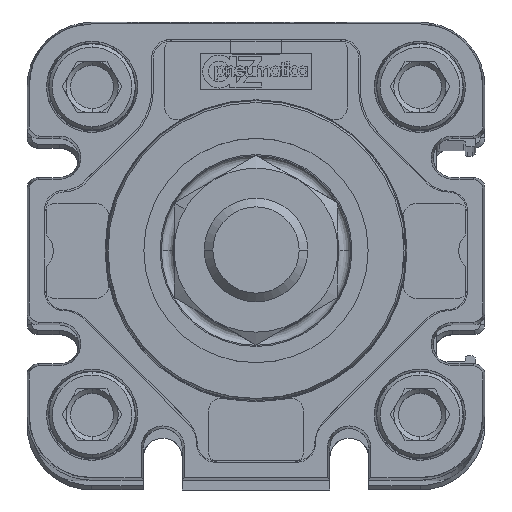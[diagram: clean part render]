
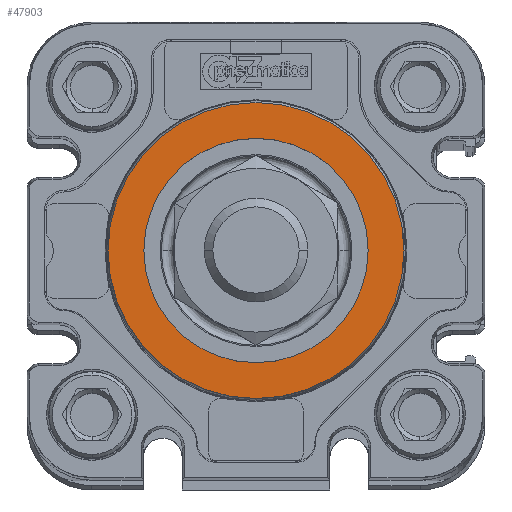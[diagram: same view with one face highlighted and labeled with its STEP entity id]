
A CAD part, top view. The second image highlights one B-rep face of the part: STEP entity #47903.
In plain terms, the highlighted planar face has unit normal (0, 0, 1) as drawn and (0, 0, -1) by its records, which use the part's own axes.
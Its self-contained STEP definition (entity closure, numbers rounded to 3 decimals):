
#433 = DIRECTION ( 'NONE',  ( 0., 0., 1. ) ) ;
#693 = VERTEX_POINT ( 'NONE', #33113 ) ;
#875 = DIRECTION ( 'NONE',  ( 1., 0., 0. ) ) ;
#1049 = DIRECTION ( 'NONE',  ( 0., 0., -1. ) ) ;
#2428 = EDGE_CURVE ( 'NONE', #38126, #693, #4751, .T. ) ;
#2472 = EDGE_CURVE ( 'NONE', #57561, #59990, #10723, .T. ) ;
#2537 = AXIS2_PLACEMENT_3D ( 'NONE', #34890, #54037, #40013 ) ;
#2602 = ORIENTED_EDGE ( 'NONE', *, *, #2472, .T. ) ;
#3993 = CARTESIAN_POINT ( 'NONE',  ( 0., 0., -49.3 ) ) ;
#4751 = CIRCLE ( 'NONE', #39789, 13. ) ;
#7785 = FACE_BOUND ( 'NONE', #39498, .T. ) ;
#10723 = CIRCLE ( 'NONE', #2537, 17.154 ) ;
#11873 = ORIENTED_EDGE ( 'NONE', *, *, #36562, .T. ) ;
#12603 = AXIS2_PLACEMENT_3D ( 'NONE', #15214, #1049, #39766 ) ;
#13890 = DIRECTION ( 'NONE',  ( 0., 0., 1. ) ) ;
#13917 = DIRECTION ( 'NONE',  ( -1., 0., 0. ) ) ;
#15214 = CARTESIAN_POINT ( 'NONE',  ( 0., 0., -49.3 ) ) ;
#18721 = CARTESIAN_POINT ( 'NONE',  ( 0., 0., -49.3 ) ) ;
#19515 = EDGE_CURVE ( 'NONE', #59990, #57561, #20435, .T. ) ;
#19654 = CARTESIAN_POINT ( 'NONE',  ( 0., 0., -49.3 ) ) ;
#20435 = CIRCLE ( 'NONE', #48712, 17.154 ) ;
#23365 = ORIENTED_EDGE ( 'NONE', *, *, #19515, .T. ) ;
#24495 = EDGE_LOOP ( 'NONE', ( #23365, #2602 ) ) ;
#25151 = PLANE ( 'NONE',  #12603 ) ;
#30424 = FACE_OUTER_BOUND ( 'NONE', #24495, .T. ) ;
#33113 = CARTESIAN_POINT ( 'NONE',  ( -13., 0., -49.3 ) ) ;
#34055 = AXIS2_PLACEMENT_3D ( 'NONE', #18721, #13890, #47396 ) ;
#34890 = CARTESIAN_POINT ( 'NONE',  ( 0., 0., -49.3 ) ) ;
#36562 = EDGE_CURVE ( 'NONE', #693, #38126, #50050, .T. ) ;
#38126 = VERTEX_POINT ( 'NONE', #57412 ) ;
#39498 = EDGE_LOOP ( 'NONE', ( #53688, #11873 ) ) ;
#39766 = DIRECTION ( 'NONE',  ( -1., 0., 0. ) ) ;
#39789 = AXIS2_PLACEMENT_3D ( 'NONE', #19654, #433, #875 ) ;
#40013 = DIRECTION ( 'NONE',  ( -1., 0., 0. ) ) ;
#42953 = DIRECTION ( 'NONE',  ( 0., 0., -1. ) ) ;
#47396 = DIRECTION ( 'NONE',  ( 1., 0., 0. ) ) ;
#47903 = ADVANCED_FACE ( 'NONE', ( #30424, #7785 ), #25151, .T. ) ;
#48712 = AXIS2_PLACEMENT_3D ( 'NONE', #3993, #42953, #13917 ) ;
#50050 = CIRCLE ( 'NONE', #34055, 13. ) ;
#53688 = ORIENTED_EDGE ( 'NONE', *, *, #2428, .T. ) ;
#54037 = DIRECTION ( 'NONE',  ( 0., 0., -1. ) ) ;
#57412 = CARTESIAN_POINT ( 'NONE',  ( 13., 0., -49.3 ) ) ;
#57561 = VERTEX_POINT ( 'NONE', #59083 ) ;
#59083 = CARTESIAN_POINT ( 'NONE',  ( -17.154, 0., -49.3 ) ) ;
#59990 = VERTEX_POINT ( 'NONE', #61443 ) ;
#61443 = CARTESIAN_POINT ( 'NONE',  ( 17.154, 0., -49.3 ) ) ;
